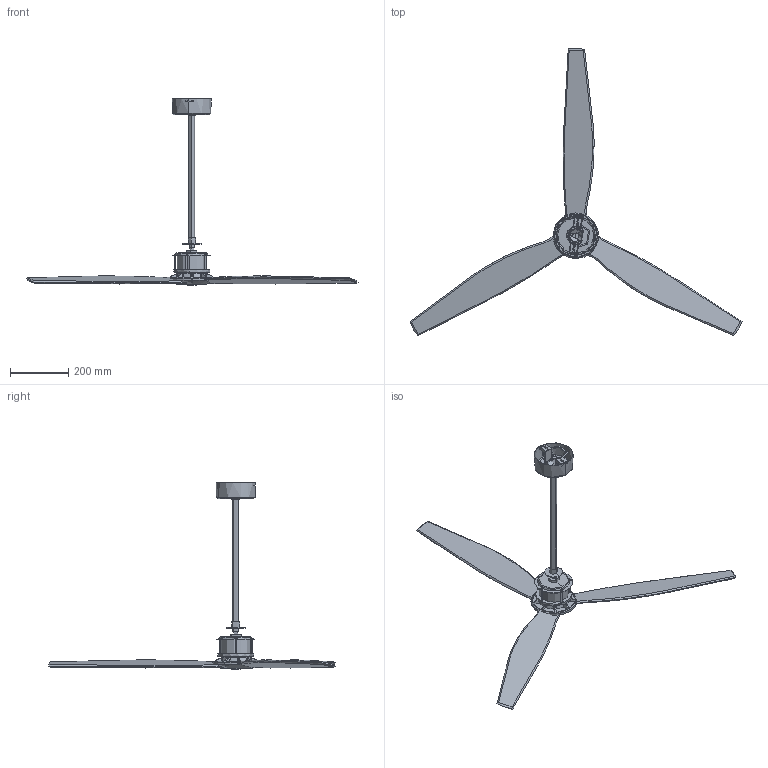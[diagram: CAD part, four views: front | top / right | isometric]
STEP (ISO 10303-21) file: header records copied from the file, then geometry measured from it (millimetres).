
FILE_DESCRIPTION(/* description */ (''),/* implementation_level */ '2;1');
FILE_NAME(/* name */ 'justfan_m_3d',/* time_stamp */ '2026-06-22T12:28:57+02:00',/* author */ (''),/* organization */ (''),/* preprocessor_version */ 'ST-DEVELOPER v19.2',/* originating_system */ 'Rhino 8.30',/* authorisation */ '');
FILE_SCHEMA (('CONFIG_CONTROL_DESIGN'));
Length unit declared in the file: millimetre
Products named in the file (1): Document
Bounding box: 1139.91 x 987.51 x 640.8 mm (x, y, z)
Volume: 1726984.3 mm3; surface area: 618425.5 mm2
Topology: 22 solids, 37 shells, 654 faces, 1597 edges, 978 vertices
Faces by surface type: bspline 287, plane 184, cylinder 183
Entity records: 43510 total; most frequent: CARTESIAN_POINT 27273, ORIENTED_EDGE 3078, EDGE_CURVE 1597, DIRECTION 1231, B_SPLINE_CURVE_WITH_KNOTS 1142, VERTEX_POINT 978, AXIS2_PLACEMENT_3D 799, EDGE_LOOP 711
